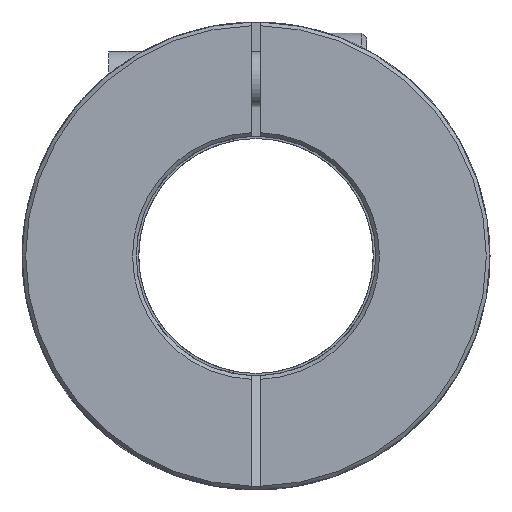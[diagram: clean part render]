
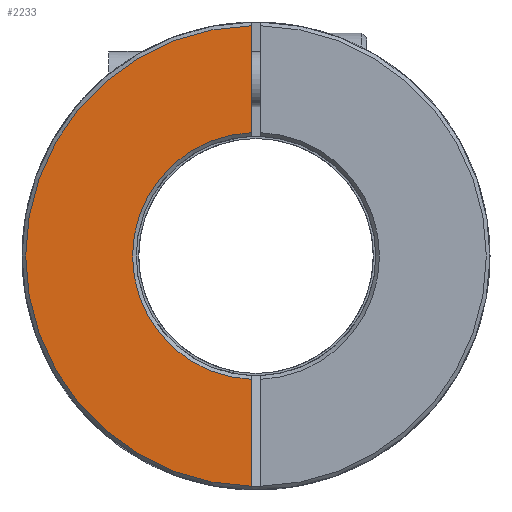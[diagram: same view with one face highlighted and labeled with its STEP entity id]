
A CAD part, front view. The second image highlights one B-rep face of the part: STEP entity #2233.
In plain terms, the highlighted planar face has unit normal (0, -1, 0).
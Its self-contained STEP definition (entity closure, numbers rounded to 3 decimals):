
#1=DIRECTION('',(0.,0.,-1.));
#2=VECTOR('',#1,11.604);
#3=CARTESIAN_POINT('',(-0.5,-27.,24.995));
#4=LINE('',#3,#2);
#5=DIRECTION('',(0.,0.,-1.));
#6=VECTOR('',#5,11.604);
#7=CARTESIAN_POINT('',(-0.5,-27.,-13.391));
#8=LINE('',#7,#6);
#55=CARTESIAN_POINT('',(0.,-27.,0.));
#56=DIRECTION('',(0.,-1.,0.));
#57=DIRECTION('',(-0.02,0.,1.));
#58=AXIS2_PLACEMENT_3D('',#55,#56,#57);
#99=CARTESIAN_POINT('',(0.,-27.,0.));
#100=DIRECTION('',(0.,1.,0.));
#101=DIRECTION('',(-0.037,0.,-0.999));
#102=AXIS2_PLACEMENT_3D('',#99,#100,#101);
#2097=CARTESIAN_POINT('',(-0.5,-27.,24.995));
#2098=CARTESIAN_POINT('',(-0.5,-27.,13.391));
#2099=VERTEX_POINT('',#2097);
#2100=VERTEX_POINT('',#2098);
#2101=CARTESIAN_POINT('',(-0.5,-27.,-13.391));
#2102=CARTESIAN_POINT('',(-0.5,-27.,-24.995));
#2103=VERTEX_POINT('',#2101);
#2104=VERTEX_POINT('',#2102);
#2218=CARTESIAN_POINT('',(0.,-27.,0.));
#2219=DIRECTION('',(0.,1.,0.));
#2220=DIRECTION('',(1.,0.,0.));
#2221=AXIS2_PLACEMENT_3D('',#2218,#2219,#2220);
#2222=PLANE('',#2221);
#2224=ORIENTED_EDGE('',*,*,#2223,.T.);
#2226=ORIENTED_EDGE('',*,*,#2225,.F.);
#2228=ORIENTED_EDGE('',*,*,#2227,.T.);
#2230=ORIENTED_EDGE('',*,*,#2229,.F.);
#2231=EDGE_LOOP('',(#2224,#2226,#2228,#2230));
#2232=FACE_OUTER_BOUND('',#2231,.F.);
#2233=ADVANCED_FACE('',(#2232),#2222,.F.);
#59=CIRCLE('',#58,25.);
#103=CIRCLE('',#102,13.4);
#2223=EDGE_CURVE('',#2099,#2100,#4,.T.);
#2225=EDGE_CURVE('',#2103,#2100,#103,.T.);
#2227=EDGE_CURVE('',#2103,#2104,#8,.T.);
#2229=EDGE_CURVE('',#2099,#2104,#59,.T.);
